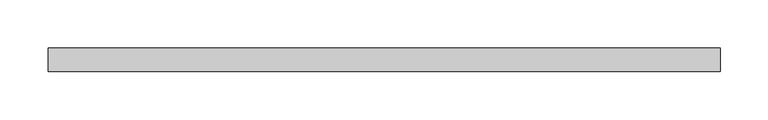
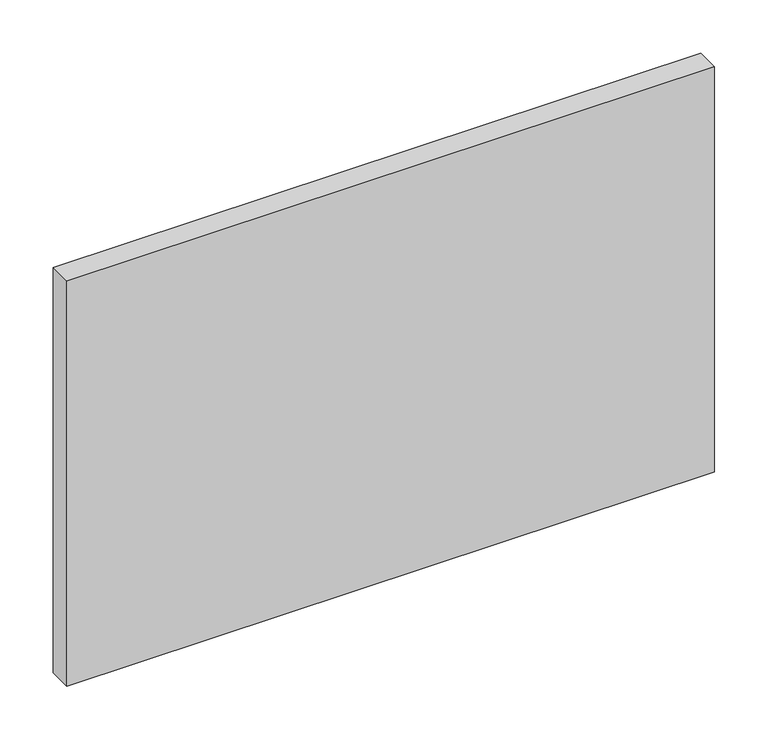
"""IFC4 building model written with IfcOpenShell, lengths in millimetres: plate geometry, Системная панель : С остеклением."""

import ifcopenshell
import ifcopenshell.guid

model = None  # the IFC model being written
_history = None  # IfcOwnerHistory: only IFC2X3 demands one
_inside = {}  # id of a spatial element -> (the spatial element, [elements in it])
_under = {}  # id of a project, library or spatial element -> (it, [spatial elements below it])
_declared = {}  # id of a project -> (the project, [libraries it declares])
_typed = {}  # id of a type object -> (the type object, [elements of that type])
_made_of = {}  # id of a material, layer set ... -> (it, [elements and type objects made of it])


def new_model(schema):
    """Start an empty IFC model of exactly this schema.

    Asked for "IFC4X3", IfcOpenShell would pick the latest addendum, in which some entities
    have other attributes; the version numbers below select the first issue.
    IFC2X3 requires an IfcOwnerHistory on every rooted entity: one is made here for all.
    """
    global model, _history
    if schema == "IFC4X3":
        model = ifcopenshell.file(schema_version=(4, 3, 0, 0))
    else:
        model = ifcopenshell.file(schema=schema)
    _inside.clear()
    _under.clear()
    _declared.clear()
    _typed.clear()
    _made_of.clear()
    _history = None
    if model.schema == "IFC2X3":
        org = make("IfcOrganization", Name="unknown")
        user = make(
            "IfcPersonAndOrganization",
            ThePerson=make("IfcPerson", FamilyName="unknown"),
            TheOrganization=org,
        )
        app = make(
            "IfcApplication",
            ApplicationDeveloper=org,
            Version="unknown",
            ApplicationFullName="unknown",
            ApplicationIdentifier="unknown",
        )
        _history = make(
            "IfcOwnerHistory",
            OwningUser=user,
            OwningApplication=app,
            ChangeAction="ADDED",
            CreationDate=0,
        )
    return model


def make(cls, **values):
    """One entity of the class cls with the attributes given. An attribute that is None is left unset."""
    return model.create_entity(
        cls, **{name: value for name, value in values.items() if value is not None}
    )


def rooted(cls, **values):
    """An entity with a GlobalId (a new one), such as an element, a storey or a relation."""
    return make(cls, GlobalId=ifcopenshell.guid.new(), OwnerHistory=_history, **values)


def si_unit(unit_type, name, prefix=None):
    """IfcSIUnit, for example si_unit("LENGTHUNIT", "METRE", prefix="MILLI")."""
    return make("IfcSIUnit", UnitType=unit_type, Prefix=prefix, Name=name)


def assignment(units):
    """IfcUnitAssignment: the units of a project."""
    return None if units is None else make("IfcUnitAssignment", Units=units)


def point(xyz):
    """IfcCartesianPoint."""
    return None if xyz is None else make("IfcCartesianPoint", Coordinates=xyz)


def direction(xyz):
    """IfcDirection."""
    return None if xyz is None else make("IfcDirection", DirectionRatios=xyz)


def frame(location, z_axis=None, x_axis=None):
    """IfcAxis2Placement3D, a coordinate frame: its origin and axes. An axis left out is left unset."""
    return make(
        "IfcAxis2Placement3D",
        Location=point(location),
        Axis=direction(z_axis),
        RefDirection=direction(x_axis),
    )


def origin():
    """The frame at (0, 0, 0) with its axes left unset."""
    return frame((0.0, 0.0, 0.0))


def origin_with_axes():
    """The frame at (0, 0, 0) with the z axis (0, 0, 1) and the x axis (1, 0, 0) written out."""
    return frame((0.0, 0.0, 0.0), z_axis=(0.0, 0.0, 1.0), x_axis=(1.0, 0.0, 0.0))


def place(relative_to, where):
    """IfcLocalPlacement: puts the frame where relative to a parent placement (None: the world)."""
    return make(
        "IfcLocalPlacement", PlacementRelTo=relative_to, RelativePlacement=where
    )


def context(
    kind, dimensions, precision=None, world=None, true_north=None, identifier=None
):
    """IfcGeometricRepresentationContext, for example the 3D "Model" context."""
    return make(
        "IfcGeometricRepresentationContext",
        ContextIdentifier=identifier,
        ContextType=kind,
        CoordinateSpaceDimension=dimensions,
        Precision=precision,
        WorldCoordinateSystem=world,
        TrueNorth=true_north,
    )


def project(units=None, contexts=None):
    """IfcProject with its units and contexts."""
    return rooted(
        "IfcProject",
        Name="project",
        RepresentationContexts=contexts,
        UnitsInContext=assignment(units),
    )


def spatial(cls, under=None, at=None, **own):
    """A site, building, storey or space (cls), placed at a placement, below another one or the project."""
    s = rooted(cls, ObjectPlacement=at, **own)
    if under is not None:
        _under.setdefault(under.id(), (under, []))[1].append(s)
    return s


def polyline(points):
    """IfcPolyline through the points."""
    return make("IfcPolyline", Points=[point(p) for p in points])


def outline(outer, holes=None, kind="AREA"):
    """IfcArbitraryClosedProfileDef: a profile drawn as a closed curve; with holes, ...WithVoids."""
    if holes is None:
        return make("IfcArbitraryClosedProfileDef", ProfileType=kind, OuterCurve=outer)
    return make(
        "IfcArbitraryProfileDefWithVoids",
        ProfileType=kind,
        OuterCurve=outer,
        InnerCurves=holes,
    )


def extrude(swept, where, along, depth):
    """IfcExtrudedAreaSolid: the profile swept, set in the frame where, extruded along a direction by depth."""
    return make(
        "IfcExtrudedAreaSolid",
        SweptArea=swept,
        Position=where,
        ExtrudedDirection=direction(along),
        Depth=depth,
    )


def shape(context_of_items, identifier, shape_type, items):
    """IfcShapeRepresentation: the items that make up one representation, for example the "Body"."""
    return make(
        "IfcShapeRepresentation",
        ContextOfItems=context_of_items,
        RepresentationIdentifier=identifier,
        RepresentationType=shape_type,
        Items=items,
    )


def source(mapping_origin, context_of_items, identifier, shape_type, items):
    """IfcRepresentationMap: a shape defined once, which mapped items show again and again."""
    return make(
        "IfcRepresentationMap",
        MappingOrigin=mapping_origin,
        MappedRepresentation=shape(context_of_items, identifier, shape_type, items),
    )


def transform(
    local_origin,
    x_axis=None,
    y_axis=None,
    z_axis=None,
    scale=None,
    scale2=None,
    scale3=None,
    uniform=True,
):
    """IfcCartesianTransformationOperator3D, or its non-uniform kind. x_axis, y_axis, z_axis: its Axis1, 2, 3."""
    if uniform:
        return make(
            "IfcCartesianTransformationOperator3D",
            Axis1=direction(x_axis),
            Axis2=direction(y_axis),
            LocalOrigin=point(local_origin),
            Scale=scale,
            Axis3=direction(z_axis),
        )
    return make(
        "IfcCartesianTransformationOperator3DnonUniform",
        Axis1=direction(x_axis),
        Axis2=direction(y_axis),
        LocalOrigin=point(local_origin),
        Scale=scale,
        Axis3=direction(z_axis),
        Scale2=scale2,
        Scale3=scale3,
    )


def mapped(mapping_source, mapping_target):
    """IfcMappedItem: shows the shape of a source again, moved by a transform."""
    return make(
        "IfcMappedItem", MappingSource=mapping_source, MappingTarget=mapping_target
    )


def made_of(thing, what):
    """Note that an element or type object is made of a material, layer set ...; save() writes the relation."""
    if what is not None:
        _made_of.setdefault(what.id(), (what, []))[1].append(thing)
    return thing


def element(
    cls,
    number,
    at=None,
    inside=None,
    cuts=None,
    type_object=None,
    material=None,
    context=None,
    identifier="Body",
    shape_type=None,
    held_by="IfcProductDefinitionShape",
    body=None,
    shapes=None,
    **own,
):
    """One element of the class cls, such as IfcWall. Its Tag is "e" and its number.

    at: its placement. inside: the storey or other place that contains it. cuts: it is an
    opening in that element (IfcRelVoidsElement). A single representation is given by context,
    identifier, shape_type and body (its items); several are given by shapes. held_by: the class
    of the entity that holds the representations. save() writes the other relations.
    """
    e = rooted(cls, Tag="e%d" % number, ObjectPlacement=at, **own)
    if body is not None:
        shapes = [shape(context, identifier, shape_type, body)]
    if shapes is not None:
        e.Representation = make(held_by, Representations=shapes)
    if inside is not None:
        _inside.setdefault(inside.id(), (inside, []))[1].append(e)
    if cuts is not None:
        rooted(
            "IfcRelVoidsElement", RelatingBuildingElement=cuts, RelatedOpeningElement=e
        )
    if type_object is not None:
        _typed.setdefault(type_object.id(), (type_object, []))[1].append(e)
    return made_of(e, material)


def aggregate(whole, parts):
    """IfcRelAggregates: a whole, such as a stair, and the parts it consists of."""
    return rooted("IfcRelAggregates", RelatingObject=whole, RelatedObjects=parts)


def save(model, path):
    """Write the relations noted so far, then the file.

    IfcRelAggregates (storeys below a building ...), IfcRelContainedInSpatialStructure (elements
    in a storey), IfcRelDefinesByType, IfcRelAssociatesMaterial and IfcRelDeclares: one each for
    every whole, place, type object, material and project.
    """
    for whole, parts in _under.values():
        aggregate(whole, parts)
    for where, things in _inside.values():
        rooted(
            "IfcRelContainedInSpatialStructure",
            RelatedElements=things,
            RelatingStructure=where,
        )
    for kind, things in _typed.values():
        rooted("IfcRelDefinesByType", RelatedObjects=things, RelatingType=kind)
    for what, things in _made_of.values():
        rooted("IfcRelAssociatesMaterial", RelatedObjects=things, RelatingMaterial=what)
    for by, libraries in _declared.values():
        rooted("IfcRelDeclares", RelatingContext=by, RelatedDefinitions=libraries)
    model.write(path)


def plate_1d454050(model_context):
    return source(origin(), model_context, "Body", "SweptSolid", [
        extrude(outline(polyline([(350.0, 24.5), (-350.0, 24.5), (-350.0, 49.5), (350.0, 49.5), (350.0, 24.5)])), origin_with_axes(), (0.0, 0.0, 1.0), 463.2361077),
    ])


if __name__ == "__main__":
    model = new_model("IFC4")
    model_context = context("Model", 3, world=origin())
    ifc_project = project(units=[si_unit("LENGTHUNIT", "METRE", prefix="MILLI")], contexts=[model_context])
    site = spatial("IfcSite", under=ifc_project)
    building = spatial("IfcBuilding", under=site)
    placement = place(None, origin())
    plate_shape = plate_1d454050(model_context)
    element("IfcPlate", 1, ObjectType="Системная панель : С остеклением", at=placement, inside=building, context=model_context, shape_type="MappedRepresentation", body=[
        mapped(plate_shape, transform((0.0, 0.0, 0.0), x_axis=(1.0, 0.0, 0.0), y_axis=(0.0, 1.0, 0.0), z_axis=(0.0, 0.0, 1.0))),
    ])
    save(model, "model.ifc")
